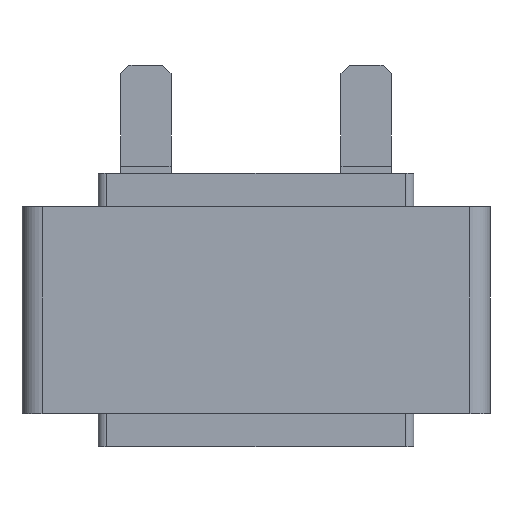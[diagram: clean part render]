
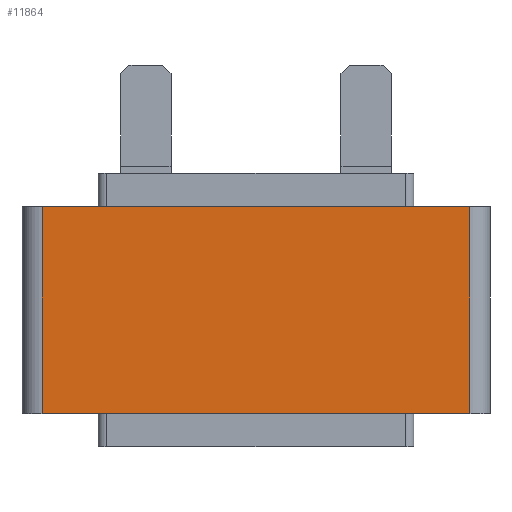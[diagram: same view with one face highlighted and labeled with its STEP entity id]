
A CAD part, front view. The second image highlights one B-rep face of the part: STEP entity #11864.
In plain terms, the highlighted planar face has unit normal (0, -1, 0).
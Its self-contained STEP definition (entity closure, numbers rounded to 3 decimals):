
#910 = DIRECTION ( 'NONE',  ( 0., 1., 0. ) ) ;
#1138 = EDGE_CURVE ( 'NONE', #5037, #11555, #7630, .T. ) ;
#1402 = CARTESIAN_POINT ( 'NONE',  ( -25.43, -10.091, 12.3 ) ) ;
#3024 = ORIENTED_EDGE ( 'NONE', *, *, #11000, .F. ) ;
#3467 = CARTESIAN_POINT ( 'NONE',  ( 25.43, -10.091, 12.3 ) ) ;
#4590 = CARTESIAN_POINT ( 'NONE',  ( 25.43, -10.091, -12.3 ) ) ;
#5037 = VERTEX_POINT ( 'NONE', #3467 ) ;
#7000 = CARTESIAN_POINT ( 'NONE',  ( -25.43, -10.091, 12.3 ) ) ;
#7630 = LINE ( 'NONE', #14159, #16045 ) ;
#7778 = DIRECTION ( 'NONE',  ( 0., 0., -1. ) ) ;
#8123 = CARTESIAN_POINT ( 'NONE',  ( -25.43, -10.091, -12.3 ) ) ;
#8796 = ORIENTED_EDGE ( 'NONE', *, *, #1138, .F. ) ;
#8809 = CARTESIAN_POINT ( 'NONE',  ( -25.43, -10.091, -12.3 ) ) ;
#11000 = EDGE_CURVE ( 'NONE', #15792, #5037, #18372, .T. ) ;
#11555 = VERTEX_POINT ( 'NONE', #4590 ) ;
#11634 = VERTEX_POINT ( 'NONE', #8123 ) ;
#11864 = ADVANCED_FACE ( 'NONE', ( #14193 ), #21037, .F. ) ;
#11944 = VECTOR ( 'NONE', #7778, 1000. ) ;
#12952 = DIRECTION ( 'NONE',  ( 1., 0., 0. ) ) ;
#13506 = LINE ( 'NONE', #15930, #11944 ) ;
#13699 = AXIS2_PLACEMENT_3D ( 'NONE', #14298, #910, #20749 ) ;
#13924 = ORIENTED_EDGE ( 'NONE', *, *, #18118, .T. ) ;
#13946 = VECTOR ( 'NONE', #12952, 1000. ) ;
#14159 = CARTESIAN_POINT ( 'NONE',  ( 25.43, -10.091, 12.3 ) ) ;
#14193 = FACE_OUTER_BOUND ( 'NONE', #16518, .T. ) ;
#14206 = EDGE_CURVE ( 'NONE', #15792, #11634, #13506, .T. ) ;
#14298 = CARTESIAN_POINT ( 'NONE',  ( -25.43, -10.091, 12.3 ) ) ;
#14451 = DIRECTION ( 'NONE',  ( 0., 0., -1. ) ) ;
#15792 = VERTEX_POINT ( 'NONE', #7000 ) ;
#15930 = CARTESIAN_POINT ( 'NONE',  ( -25.43, -10.091, 12.3 ) ) ;
#16045 = VECTOR ( 'NONE', #14451, 1000. ) ;
#16518 = EDGE_LOOP ( 'NONE', ( #13924, #8796, #3024, #20402 ) ) ;
#16885 = DIRECTION ( 'NONE',  ( 1., 0., 0. ) ) ;
#17765 = LINE ( 'NONE', #8809, #20434 ) ;
#18118 = EDGE_CURVE ( 'NONE', #11634, #11555, #17765, .T. ) ;
#18372 = LINE ( 'NONE', #1402, #13946 ) ;
#20402 = ORIENTED_EDGE ( 'NONE', *, *, #14206, .T. ) ;
#20434 = VECTOR ( 'NONE', #16885, 1000. ) ;
#20749 = DIRECTION ( 'NONE',  ( 0., 0., 1. ) ) ;
#21037 = PLANE ( 'NONE',  #13699 ) ;
